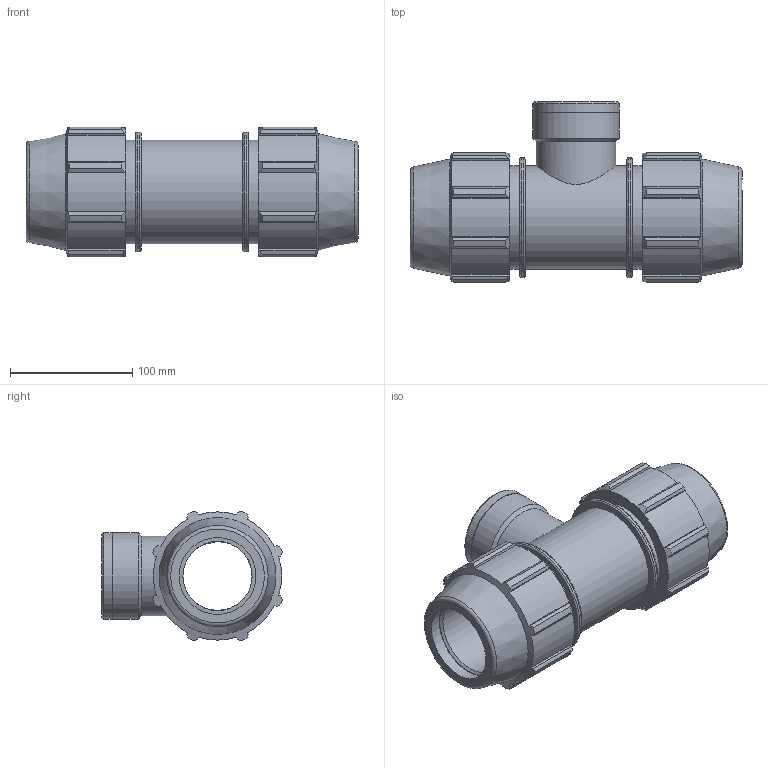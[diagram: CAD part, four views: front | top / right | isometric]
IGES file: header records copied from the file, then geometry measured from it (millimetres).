
Global section: file name: 071400063020_181400063020_0714060630200A.ipt; native system: Autodesk Inventor 2015; preprocessor: unknown; author: KIM; date: 20170606.172201; units: millimetre
Bounding box: 272 x 148.16 x 106.32 mm (x, y, z)
Volume: 1131465.6 mm3; surface area: 180413 mm2
Topology: 1 solids, 1 shells, 157 faces, 441 edges, 298 vertices
Faces by surface type: plane 79, cylinder 40, cone 23, revolution 15
Full cylindrical faces by diameter (mm): 65.154 x1, 70.82 x2, 84.75 x3, 98.31 x2
